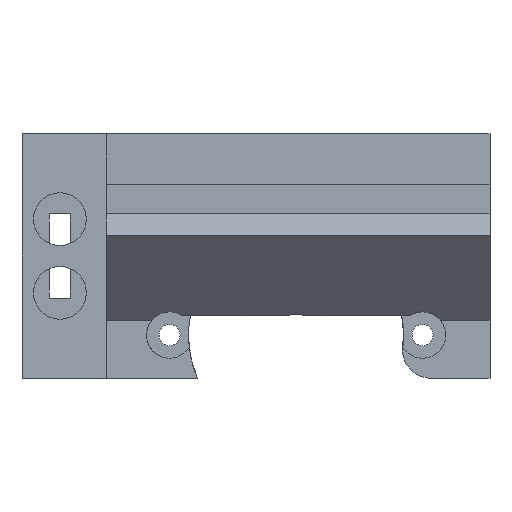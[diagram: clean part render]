
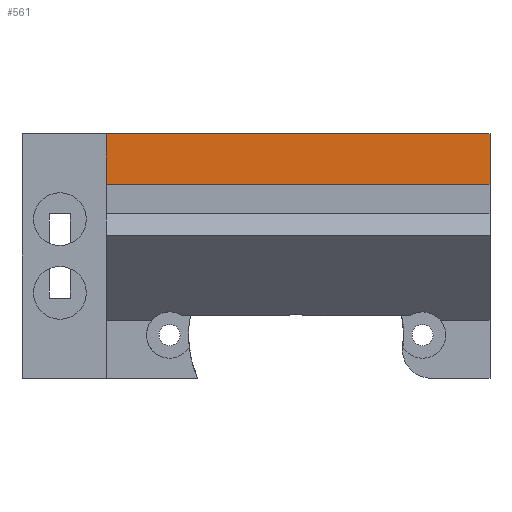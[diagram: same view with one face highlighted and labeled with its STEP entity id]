
A CAD part, left-side view. The second image highlights one B-rep face of the part: STEP entity #561.
In plain terms, the highlighted planar face has unit normal (-1, 0, 0).
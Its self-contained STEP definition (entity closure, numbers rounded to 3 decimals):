
#24 = VERTEX_POINT('',#25);
#25 = CARTESIAN_POINT('',(-6.5,-10.,48.));
#32 = PLANE('',#33);
#33 = AXIS2_PLACEMENT_3D('',#34,#35,#36);
#34 = CARTESIAN_POINT('',(73.5,-10.,48.));
#35 = DIRECTION('',(0.,1.,0.));
#36 = DIRECTION('',(0.,0.,1.));
#44 = PLANE('',#45);
#45 = AXIS2_PLACEMENT_3D('',#46,#47,#48);
#46 = CARTESIAN_POINT('',(73.5,-10.,48.));
#47 = DIRECTION('',(0.,0.,1.));
#48 = DIRECTION('',(0.,1.,0.));
#56 = EDGE_CURVE('',#24,#57,#59,.T.);
#57 = VERTEX_POINT('',#58);
#58 = CARTESIAN_POINT('',(-6.5,-10.,36.));
#59 = SURFACE_CURVE('',#60,(#64,#71),.PCURVE_S1.);
#60 = LINE('',#61,#62);
#61 = CARTESIAN_POINT('',(-6.5,-10.,48.));
#62 = VECTOR('',#63,1.);
#63 = DIRECTION('',(0.,0.,-1.));
#64 = PCURVE('',#32,#65);
#65 = DEFINITIONAL_REPRESENTATION('',(#66),#70);
#66 = LINE('',#67,#68);
#67 = CARTESIAN_POINT('',(0.,-80.));
#68 = VECTOR('',#69,1.);
#69 = DIRECTION('',(-1.,0.));
#70 = ( GEOMETRIC_REPRESENTATION_CONTEXT(2) 
PARAMETRIC_REPRESENTATION_CONTEXT() REPRESENTATION_CONTEXT('2D SPACE',''
  ) );
#71 = PCURVE('',#72,#77);
#72 = PLANE('',#73);
#73 = AXIS2_PLACEMENT_3D('',#74,#75,#76);
#74 = CARTESIAN_POINT('',(-6.5,-10.,48.));
#75 = DIRECTION('',(-1.,0.,0.));
#76 = DIRECTION('',(0.,0.,-1.));
#77 = DEFINITIONAL_REPRESENTATION('',(#78),#82);
#78 = LINE('',#79,#80);
#79 = CARTESIAN_POINT('',(0.,0.));
#80 = VECTOR('',#81,1.);
#81 = DIRECTION('',(1.,0.));
#82 = ( GEOMETRIC_REPRESENTATION_CONTEXT(2) 
PARAMETRIC_REPRESENTATION_CONTEXT() REPRESENTATION_CONTEXT('2D SPACE',''
  ) );
#100 = PLANE('',#101);
#101 = AXIS2_PLACEMENT_3D('',#102,#103,#104);
#102 = CARTESIAN_POINT('',(-6.5,-10.,36.));
#103 = DIRECTION('',(0.,0.,-1.));
#104 = DIRECTION('',(1.,0.,0.));
#390 = VERTEX_POINT('',#391);
#391 = CARTESIAN_POINT('',(-6.5,81.,48.));
#405 = PLANE('',#406);
#406 = AXIS2_PLACEMENT_3D('',#407,#408,#409);
#407 = CARTESIAN_POINT('',(73.5,81.,48.));
#408 = DIRECTION('',(0.,1.,0.));
#409 = DIRECTION('',(0.,0.,1.));
#417 = EDGE_CURVE('',#24,#390,#418,.T.);
#418 = SURFACE_CURVE('',#419,(#423,#430),.PCURVE_S1.);
#419 = LINE('',#420,#421);
#420 = CARTESIAN_POINT('',(-6.5,-10.,48.));
#421 = VECTOR('',#422,1.);
#422 = DIRECTION('',(0.,1.,0.));
#423 = PCURVE('',#44,#424);
#424 = DEFINITIONAL_REPRESENTATION('',(#425),#429);
#425 = LINE('',#426,#427);
#426 = CARTESIAN_POINT('',(0.,80.));
#427 = VECTOR('',#428,1.);
#428 = DIRECTION('',(1.,0.));
#429 = ( GEOMETRIC_REPRESENTATION_CONTEXT(2) 
PARAMETRIC_REPRESENTATION_CONTEXT() REPRESENTATION_CONTEXT('2D SPACE',''
  ) );
#430 = PCURVE('',#72,#431);
#431 = DEFINITIONAL_REPRESENTATION('',(#432),#436);
#432 = LINE('',#433,#434);
#433 = CARTESIAN_POINT('',(0.,0.));
#434 = VECTOR('',#435,1.);
#435 = DIRECTION('',(0.,-1.));
#436 = ( GEOMETRIC_REPRESENTATION_CONTEXT(2) 
PARAMETRIC_REPRESENTATION_CONTEXT() REPRESENTATION_CONTEXT('2D SPACE',''
  ) );
#561 = ADVANCED_FACE('',(#562),#72,.T.);
#562 = FACE_BOUND('',#563,.T.);
#563 = EDGE_LOOP('',(#564,#565,#588,#609));
#564 = ORIENTED_EDGE('',*,*,#417,.T.);
#565 = ORIENTED_EDGE('',*,*,#566,.T.);
#566 = EDGE_CURVE('',#390,#567,#569,.T.);
#567 = VERTEX_POINT('',#568);
#568 = CARTESIAN_POINT('',(-6.5,81.,36.));
#569 = SURFACE_CURVE('',#570,(#574,#581),.PCURVE_S1.);
#570 = LINE('',#571,#572);
#571 = CARTESIAN_POINT('',(-6.5,81.,48.));
#572 = VECTOR('',#573,1.);
#573 = DIRECTION('',(0.,0.,-1.));
#574 = PCURVE('',#72,#575);
#575 = DEFINITIONAL_REPRESENTATION('',(#576),#580);
#576 = LINE('',#577,#578);
#577 = CARTESIAN_POINT('',(0.,-91.));
#578 = VECTOR('',#579,1.);
#579 = DIRECTION('',(1.,0.));
#580 = ( GEOMETRIC_REPRESENTATION_CONTEXT(2) 
PARAMETRIC_REPRESENTATION_CONTEXT() REPRESENTATION_CONTEXT('2D SPACE',''
  ) );
#581 = PCURVE('',#405,#582);
#582 = DEFINITIONAL_REPRESENTATION('',(#583),#587);
#583 = LINE('',#584,#585);
#584 = CARTESIAN_POINT('',(0.,-80.));
#585 = VECTOR('',#586,1.);
#586 = DIRECTION('',(-1.,0.));
#587 = ( GEOMETRIC_REPRESENTATION_CONTEXT(2) 
PARAMETRIC_REPRESENTATION_CONTEXT() REPRESENTATION_CONTEXT('2D SPACE',''
  ) );
#588 = ORIENTED_EDGE('',*,*,#589,.F.);
#589 = EDGE_CURVE('',#57,#567,#590,.T.);
#590 = SURFACE_CURVE('',#591,(#595,#602),.PCURVE_S1.);
#591 = LINE('',#592,#593);
#592 = CARTESIAN_POINT('',(-6.5,-10.,36.));
#593 = VECTOR('',#594,1.);
#594 = DIRECTION('',(0.,1.,0.));
#595 = PCURVE('',#72,#596);
#596 = DEFINITIONAL_REPRESENTATION('',(#597),#601);
#597 = LINE('',#598,#599);
#598 = CARTESIAN_POINT('',(12.,0.));
#599 = VECTOR('',#600,1.);
#600 = DIRECTION('',(0.,-1.));
#601 = ( GEOMETRIC_REPRESENTATION_CONTEXT(2) 
PARAMETRIC_REPRESENTATION_CONTEXT() REPRESENTATION_CONTEXT('2D SPACE',''
  ) );
#602 = PCURVE('',#100,#603);
#603 = DEFINITIONAL_REPRESENTATION('',(#604),#608);
#604 = LINE('',#605,#606);
#605 = CARTESIAN_POINT('',(0.,0.));
#606 = VECTOR('',#607,1.);
#607 = DIRECTION('',(0.,-1.));
#608 = ( GEOMETRIC_REPRESENTATION_CONTEXT(2) 
PARAMETRIC_REPRESENTATION_CONTEXT() REPRESENTATION_CONTEXT('2D SPACE',''
  ) );
#609 = ORIENTED_EDGE('',*,*,#56,.F.);
